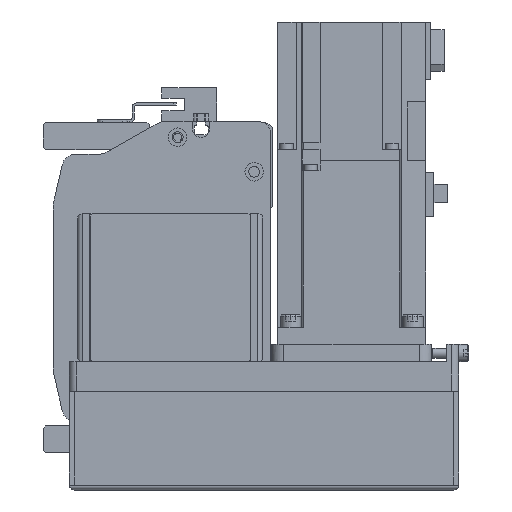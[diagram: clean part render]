
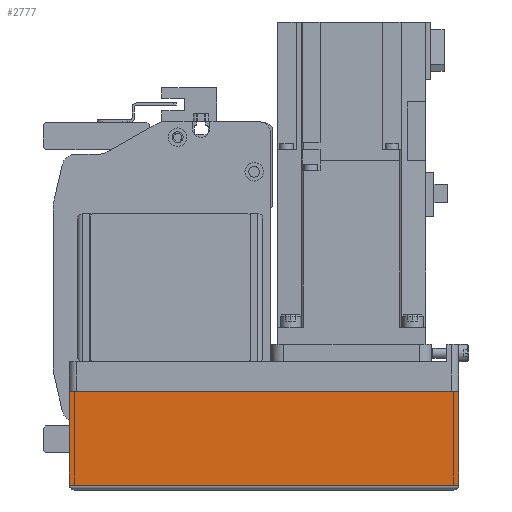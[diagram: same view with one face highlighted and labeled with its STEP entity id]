
A CAD part, left-side view. The second image highlights one B-rep face of the part: STEP entity #2777.
In plain terms, the highlighted planar face has unit normal (-1, 0, 0) as drawn and (0, 1, 0) by its records, which use the part's own axes.
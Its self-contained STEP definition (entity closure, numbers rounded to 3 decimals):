
#2777 = ADVANCED_FACE( '', ( #5854 ), #5855, .T. );
#5854 = FACE_OUTER_BOUND( '', #9110, .T. );
#5855 = PLANE( '', #9111 );
#9110 = EDGE_LOOP( '', ( #16993, #16994, #16995, #16996 ) );
#9111 = AXIS2_PLACEMENT_3D( '', #16997, #16998, #16999 );
#16993 = ORIENTED_EDGE( '', *, *, #18692, .F. );
#16994 = ORIENTED_EDGE( '', *, *, #19397, .F. );
#16995 = ORIENTED_EDGE( '', *, *, #19822, .T. );
#16996 = ORIENTED_EDGE( '', *, *, #21107, .T. );
#16997 = CARTESIAN_POINT( '', ( -158., 39., -50. ) );
#16998 = DIRECTION( '', ( 0., 1., 0. ) );
#16999 = DIRECTION( '', ( 0., 0., 1. ) );
#18692 = EDGE_CURVE( '', #22251, #22252, #22253, .T. );
#19397 = EDGE_CURVE( '', #23470, #22251, #23473, .T. );
#19822 = EDGE_CURVE( '', #23470, #23711, #24170, .T. );
#21107 = EDGE_CURVE( '', #23711, #22252, #26071, .T. );
#22251 = VERTEX_POINT( '', #27472 );
#22252 = VERTEX_POINT( '', #27473 );
#22253 = LINE( '', #27474, #27475 );
#23470 = VERTEX_POINT( '', #29243 );
#23473 = LINE( '', #29246, #29247 );
#23711 = VERTEX_POINT( '', #29588 );
#24170 = LINE( '', #30239, #30240 );
#26071 = LINE( '', #33212, #33213 );
#27472 = CARTESIAN_POINT( '', ( 0., 39., -50. ) );
#27473 = CARTESIAN_POINT( '', ( 0., 39., -12.1 ) );
#27474 = CARTESIAN_POINT( '', ( 0., 39., -50. ) );
#27475 = VECTOR( '', #34797, 1000. );
#29243 = CARTESIAN_POINT( '', ( -158., 39., -50. ) );
#29246 = CARTESIAN_POINT( '', ( -158., 39., -50. ) );
#29247 = VECTOR( '', #35709, 1000. );
#29588 = CARTESIAN_POINT( '', ( -158., 39., -12.1 ) );
#30239 = CARTESIAN_POINT( '', ( -158., 39., -50. ) );
#30240 = VECTOR( '', #36192, 1000. );
#33212 = CARTESIAN_POINT( '', ( -158., 39., -12.1 ) );
#33213 = VECTOR( '', #37817, 1000. );
#34797 = DIRECTION( '', ( 0., 0., 1. ) );
#35709 = DIRECTION( '', ( 1., 0., 0. ) );
#36192 = DIRECTION( '', ( 0., 0., 1. ) );
#37817 = DIRECTION( '', ( 1., 0., 0. ) );
